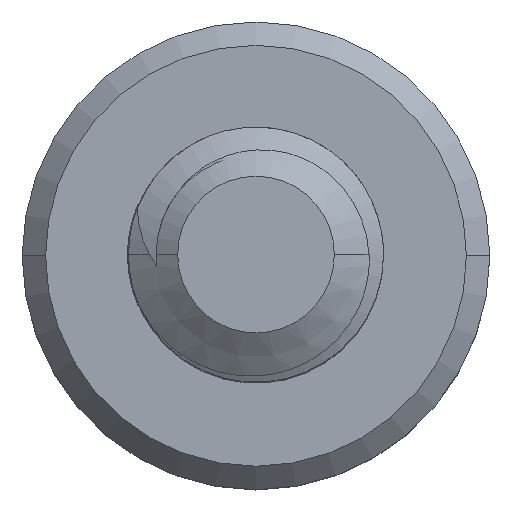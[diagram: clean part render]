
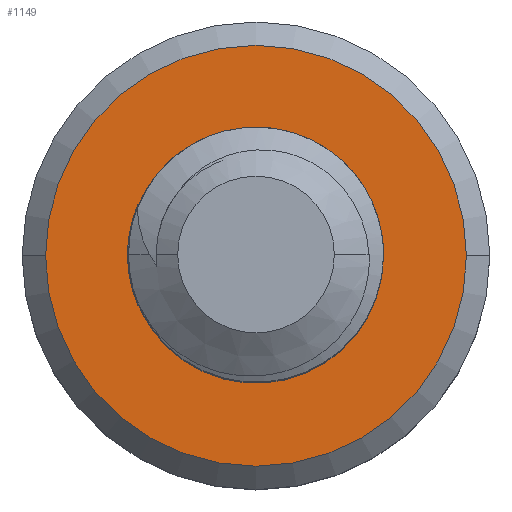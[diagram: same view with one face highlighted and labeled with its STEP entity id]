
A CAD part, top view. The second image highlights one B-rep face of the part: STEP entity #1149.
In plain terms, the highlighted planar face has unit normal (0, 0, 1).
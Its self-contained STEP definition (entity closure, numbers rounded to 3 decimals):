
#29 = EDGE_CURVE ( 'NONE', #7217, #7406, #403, .T. ) ;
#56 = CARTESIAN_POINT ( 'NONE',  ( 1.215, -0.312, -8. ) ) ;
#61 = AXIS2_PLACEMENT_3D ( 'NONE', #1907, #4722, #4768 ) ;
#403 = B_SPLINE_CURVE_WITH_KNOTS ( 'NONE', 3,
 ( #1182, #3470, #5581, #2630, #8280, #9028, #7771, #1319, #7628, #5488, #2577, #2769, #1277, #5636, #8468, #6937 ),
 .UNSPECIFIED., .F., .F.,
 ( 4, 2, 2, 2, 2, 2, 2, 4 ),
 ( 0., 0., 0.001, 0.001, 0.002, 0.002, 0.003, 0.003 ),
 .UNSPECIFIED. ) ;
#650 = CARTESIAN_POINT ( 'NONE',  ( 0., 0., -8. ) ) ;
#701 = CARTESIAN_POINT ( 'NONE',  ( 1.095, 0.838, -8. ) ) ;
#745 = CARTESIAN_POINT ( 'NONE',  ( 1.317, 0.073, -8. ) ) ;
#936 = CIRCLE ( 'NONE', #61, 1.5 ) ;
#1081 = EDGE_CURVE ( 'NONE', #1286, #5371, #8974, .T. ) ;
#1149 = ADVANCED_FACE ( 'NONE', ( #7708, #5710 ), #1396, .F. ) ;
#1160 = EDGE_LOOP ( 'NONE', ( #2214, #4899, #5689, #4001 ) ) ;
#1182 = CARTESIAN_POINT ( 'NONE',  ( 0., -1.175, -8. ) ) ;
#1194 = DIRECTION ( 'NONE',  ( 0., 0., -1. ) ) ;
#1277 = CARTESIAN_POINT ( 'NONE',  ( -1.322, 0.617, -8. ) ) ;
#1286 = VERTEX_POINT ( 'NONE', #5054 ) ;
#1319 = CARTESIAN_POINT ( 'NONE',  ( -1.155, -0.655, -8. ) ) ;
#1391 = AXIS2_PLACEMENT_3D ( 'NONE', #650, #8497, #8542 ) ;
#1396 = PLANE ( 'NONE',  #1391 ) ;
#1401 = CARTESIAN_POINT ( 'NONE',  ( 0.266, 1.478, -8. ) ) ;
#1518 = CARTESIAN_POINT ( 'NONE',  ( 0., 0., -8. ) ) ;
#1551 = EDGE_CURVE ( 'NONE', #1286, #7406, #936, .T. ) ;
#1907 = CARTESIAN_POINT ( 'NONE',  ( 0., 0., -8. ) ) ;
#2214 = ORIENTED_EDGE ( 'NONE', *, *, #1551, .F. ) ;
#2403 = EDGE_CURVE ( 'NONE', #7463, #5425, #6770, .T. ) ;
#2501 = DIRECTION ( 'NONE',  ( 1., 0., 0. ) ) ;
#2577 = CARTESIAN_POINT ( 'NONE',  ( -1.423, 0.097, -8. ) ) ;
#2630 = CARTESIAN_POINT ( 'NONE',  ( -0.526, -1.125, -8. ) ) ;
#2687 = ORIENTED_EDGE ( 'NONE', *, *, #4575, .T. ) ;
#2769 = CARTESIAN_POINT ( 'NONE',  ( -1.362, 0.488, -8. ) ) ;
#2784 = DIRECTION ( 'NONE',  ( 0., 0., 1. ) ) ;
#2893 = CARTESIAN_POINT ( 'NONE',  ( 1.017, -0.659, -8. ) ) ;
#3085 = CARTESIAN_POINT ( 'NONE',  ( 0., -1.175, -8. ) ) ;
#3470 = CARTESIAN_POINT ( 'NONE',  ( -0.133, -1.189, -8. ) ) ;
#3782 = CIRCLE ( 'NONE', #7224, 2.475 ) ;
#4001 = ORIENTED_EDGE ( 'NONE', *, *, #29, .T. ) ;
#4262 = CARTESIAN_POINT ( 'NONE',  ( 0.522, 1.38, -8. ) ) ;
#4307 = CARTESIAN_POINT ( 'NONE',  ( 1.301, 0.351, -8. ) ) ;
#4476 = DIRECTION ( 'NONE',  ( -1., 0., 0. ) ) ;
#4575 = EDGE_CURVE ( 'NONE', #5425, #7463, #3782, .T. ) ;
#4639 = CARTESIAN_POINT ( 'NONE',  ( -1.051, 1.07, -8. ) ) ;
#4722 = DIRECTION ( 'NONE',  ( 0., 0., 1. ) ) ;
#4768 = DIRECTION ( 'NONE',  ( 1., 0., 0. ) ) ;
#4873 = CARTESIAN_POINT ( 'NONE',  ( 0.823, -0.839, -8. ) ) ;
#4899 = ORIENTED_EDGE ( 'NONE', *, *, #1081, .T. ) ;
#4972 = CARTESIAN_POINT ( 'NONE',  ( 0., 1.5, -8. ) ) ;
#5054 = CARTESIAN_POINT ( 'NONE',  ( 0., 1.5, -8. ) ) ;
#5371 = VERTEX_POINT ( 'NONE', #8427 ) ;
#5425 = VERTEX_POINT ( 'NONE', #5588 ) ;
#5488 = CARTESIAN_POINT ( 'NONE',  ( -1.387, -0.178, -8. ) ) ;
#5529 = CARTESIAN_POINT ( 'NONE',  ( -2.475, 0., -8. ) ) ;
#5581 = CARTESIAN_POINT ( 'NONE',  ( -0.265, -1.182, -8. ) ) ;
#5588 = CARTESIAN_POINT ( 'NONE',  ( 2.475, 0., -8. ) ) ;
#5636 = CARTESIAN_POINT ( 'NONE',  ( -1.209, 0.856, -8. ) ) ;
#5689 = ORIENTED_EDGE ( 'NONE', *, *, #8173, .T. ) ;
#5710 = FACE_BOUND ( 'NONE', #1160, .T. ) ;
#5801 = CARTESIAN_POINT ( 'NONE',  ( 1.161, -0.435, -8. ) ) ;
#6048 = ORIENTED_EDGE ( 'NONE', *, *, #2403, .T. ) ;
#6411 = CARTESIAN_POINT ( 'NONE',  ( 1.161, 0.72, -8. ) ) ;
#6696 = DIRECTION ( 'NONE',  ( -1., 0., 0. ) ) ;
#6770 = CIRCLE ( 'NONE', #8404, 2.475 ) ;
#6778 = EDGE_LOOP ( 'NONE', ( #6048, #2687 ) ) ;
#6937 = CARTESIAN_POINT ( 'NONE',  ( -1.051, 1.07, -8. ) ) ;
#7048 = CARTESIAN_POINT ( 'NONE',  ( 0., 0., -8. ) ) ;
#7114 = CARTESIAN_POINT ( 'NONE',  ( 0.84, 1.143, -8. ) ) ;
#7194 = CARTESIAN_POINT ( 'NONE',  ( 0.935, 1.048, -8. ) ) ;
#7217 = VERTEX_POINT ( 'NONE', #3085 ) ;
#7224 = AXIS2_PLACEMENT_3D ( 'NONE', #7048, #2784, #6696 ) ;
#7230 = DIRECTION ( 'NONE',  ( 0., 0., 1. ) ) ;
#7406 = VERTEX_POINT ( 'NONE', #4639 ) ;
#7463 = VERTEX_POINT ( 'NONE', #5529 ) ;
#7628 = CARTESIAN_POINT ( 'NONE',  ( -1.226, -0.541, -8. ) ) ;
#7708 = FACE_OUTER_BOUND ( 'NONE', #6778, .T. ) ;
#7771 = CARTESIAN_POINT ( 'NONE',  ( -0.98, -0.856, -8. ) ) ;
#7937 = CARTESIAN_POINT ( 'NONE',  ( 0.93, -0.757, -8. ) ) ;
#7983 = CIRCLE ( 'NONE', #8122, 1.175 ) ;
#8122 = AXIS2_PLACEMENT_3D ( 'NONE', #8196, #1194, #2501 ) ;
#8173 = EDGE_CURVE ( 'NONE', #5371, #7217, #7983, .T. ) ;
#8196 = CARTESIAN_POINT ( 'NONE',  ( 0., 0., -8. ) ) ;
#8280 = CARTESIAN_POINT ( 'NONE',  ( -0.649, -1.077, -8. ) ) ;
#8404 = AXIS2_PLACEMENT_3D ( 'NONE', #1518, #7230, #4476 ) ;
#8427 = CARTESIAN_POINT ( 'NONE',  ( 0.823, -0.839, -8. ) ) ;
#8468 = CARTESIAN_POINT ( 'NONE',  ( -1.137, 0.968, -8. ) ) ;
#8497 = DIRECTION ( 'NONE',  ( 0., 0., -1. ) ) ;
#8542 = DIRECTION ( 'NONE',  ( -1., 0., 0. ) ) ;
#8974 = B_SPLINE_CURVE_WITH_KNOTS ( 'NONE', 3,
 ( #4972, #1401, #4262, #7114, #7194, #701, #6411, #4307, #745, #56, #5801, #2893, #7937, #4873 ),
 .UNSPECIFIED., .F., .F.,
 ( 4, 2, 2, 2, 2, 2, 4 ),
 ( 0., 0.001, 0.001, 0.002, 0.002, 0.003, 0.003 ),
 .UNSPECIFIED. ) ;
#9028 = CARTESIAN_POINT ( 'NONE',  ( -0.878, -0.941, -8. ) ) ;
